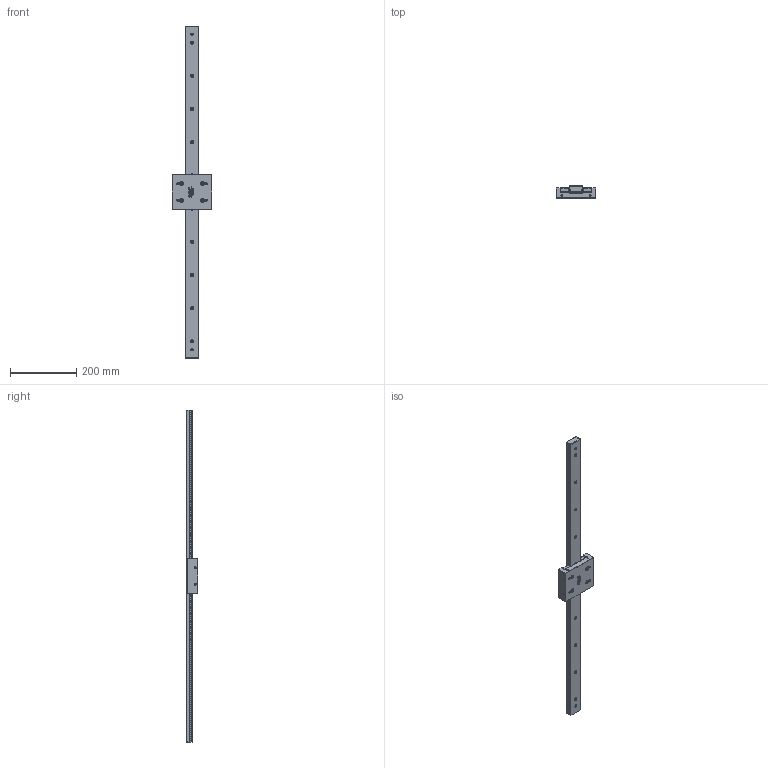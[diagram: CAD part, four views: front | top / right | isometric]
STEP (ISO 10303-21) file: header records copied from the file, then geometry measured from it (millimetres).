
FILE_DESCRIPTION(/* description */ ('TAVOLA TRKD06 L= 1000 mm'),/* implementation_level */ '2;1');
FILE_NAME(/* name */ 'TRKD061000-00.stp',/* time_stamp */ '2024-01-25T11:00:28+01:00',/* author */ ('Rosa Sistemi'),/* organization */ (''),/* preprocessor_version */ 'ST-DEVELOPER v20',/* originating_system */ 'Autodesk Inventor 2024',/* authorisation */ '');
FILE_SCHEMA (('AUTOMOTIVE_DESIGN { 1 0 10303 214 3 1 1 }'));
Length unit declared in the file: millimetre
Products named in the file (2): TRKD061000-00; TRKD061000-00_1
Assembly tree (1 placements, depth 2):
  TRKD061000-00
    TRKD061000-00_1
Bounding box: 120 x 36 x 1000 mm (x, y, z)
Volume: 1058809.7 mm3; surface area: 199310.2 mm2
Topology: 13 solids, 13 shells, 695 faces, 1783 edges, 1147 vertices
Faces by surface type: plane 422, cylinder 99, cone 88, bspline 36, sphere 26, torus 24
Full cylindrical faces by diameter (mm): 2 x2, 2.795 x1, 4.134 x4, 4.917 x22, 6 x15, 7 x3, 7.687 x1, 9.5 x10, 9.9 x4, 10 x4, 11 x4
Entity records: 22069 total; most frequent: CARTESIAN_POINT 4630, ORIENTED_EDGE 3438, DIRECTION 3358, EDGE_CURVE 1719, AXIS2_PLACEMENT_3D 1159, VERTEX_POINT 1147, LINE 1040, VECTOR 1040
